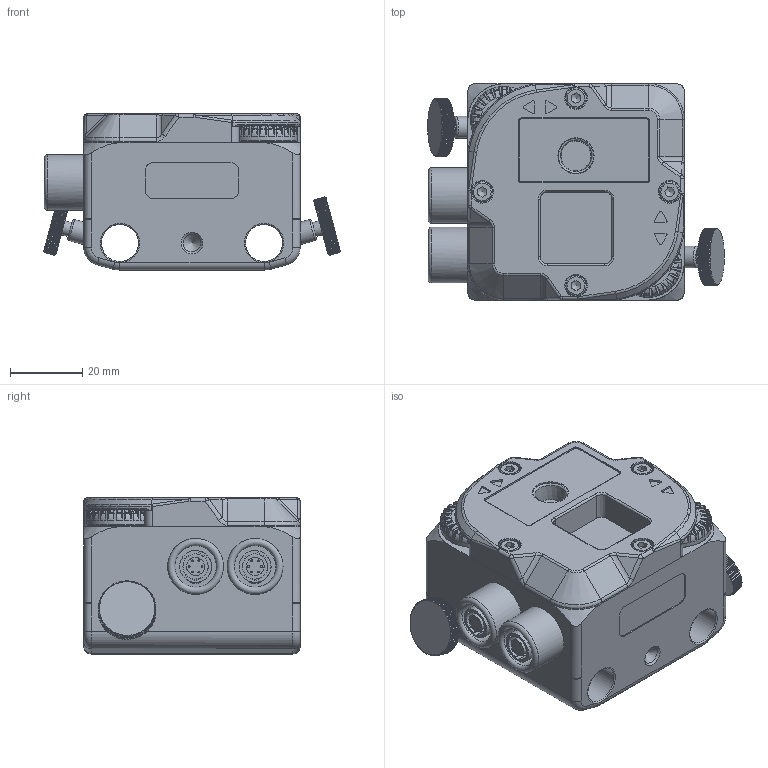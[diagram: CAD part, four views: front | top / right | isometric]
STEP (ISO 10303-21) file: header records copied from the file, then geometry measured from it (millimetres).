
FILE_DESCRIPTION(/* description */ (''),/* implementation_level */ '2;1');
FILE_NAME(/* name */ 'LM-9936-0703 M UNIT.stp',/* time_stamp */ '2021-02-22T10:55:31+00:00',/* author */ (''),/* organization */ (''),/* preprocessor_version */ 'ST-DEVELOPER v16.7',/* originating_system */ 'SIEMENS PLM Software NX 1942',/* authorisation */ '');
FILE_SCHEMA (('AUTOMOTIVE_DESIGN { 1 0 10303 214 3 1 1 1 }'));
Products named in the file (1): LM-9936-0703-A_M UNIT
Bounding box: 82.31 x 60 x 43.3 mm (x, y, z)
Volume: 139407.8 mm3; surface area: 27413.5 mm2
Topology: 1 solids, 1 shells, 2252 faces, 5870 edges, 3506 vertices
Faces by surface type: plane 771, cylinder 605, bspline 599, torus 249, cone 25, extrusion 3
Full cylindrical faces by diameter (mm): 0.5 x12, 4 x2, 4.917 x1, 5 x2, 5.5 x4, 5.95 x2, 6 x2, 6.05 x2, 6.1 x4, 7 x2, 8.85 x2, 10 x1, 10.3 x2, 11.5 x2, 14 x2, 15 x1, 15.5 x3, 18.5 x2
Entity records: 98168 total; most frequent: CARTESIAN_POINT 44732, ORIENTED_EDGE 11160, EDGE_CURVE 5580, B_SPLINE_CURVE_WITH_KNOTS 5546, VERTEX_POINT 3484, DIRECTION 3351, EDGE_LOOP 2408, ADVANCED_FACE 2252
